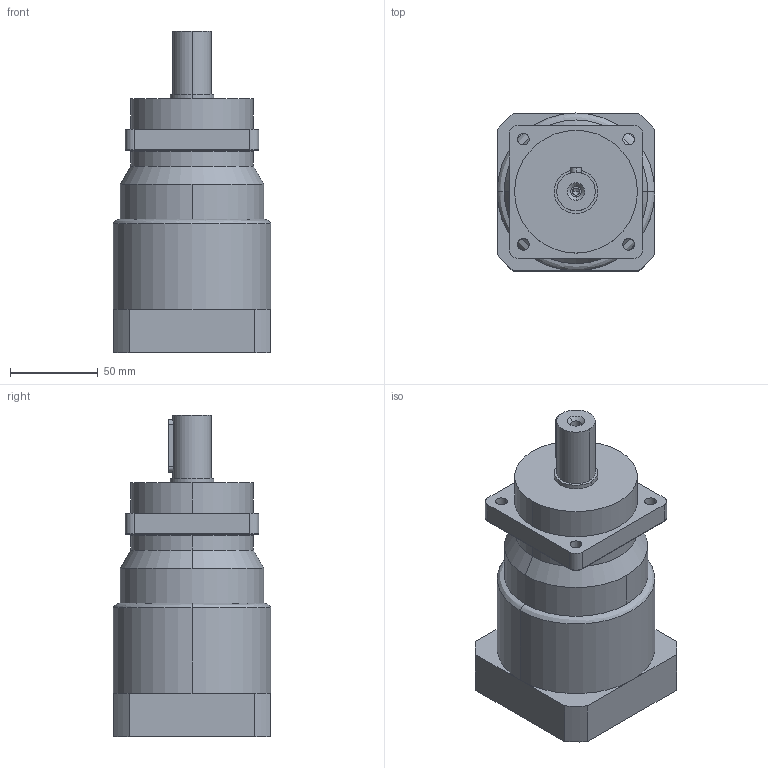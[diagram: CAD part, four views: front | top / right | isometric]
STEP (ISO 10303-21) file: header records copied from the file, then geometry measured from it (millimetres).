
FILE_DESCRIPTION (( 'STEP AP203' ), '1' );
FILE_NAME ('PN90L2-i-P2-S2-19-40-70-90-M6.STEP', '2016-01-05T03:34:37', ( 'User' ), ( 'china' ), 'SwSTEP 2.0', 'SolidWorks 2014', '' );
FILE_SCHEMA (( 'CONFIG_CONTROL_DESIGN' ));
Length unit declared in the file: millimetre
Products named in the file (1): PN90L2-i-P2-S2-19-40-70-90-M6
Bounding box: 90 x 90 x 183.5 mm (x, y, z)
Volume: 817509.4 mm3; surface area: 66931 mm2
Topology: 1 solids, 1 shells, 117 faces, 273 edges, 164 vertices
Faces by surface type: cylinder 59, plane 28, bspline 16, cone 14
Entity records: 4893 total; most frequent: CARTESIAN_POINT 2211, DIRECTION 562, ORIENTED_EDGE 526, EDGE_CURVE 263, AXIS2_PLACEMENT_3D 227, VERTEX_POINT 164, EDGE_LOOP 141, CIRCLE 125
